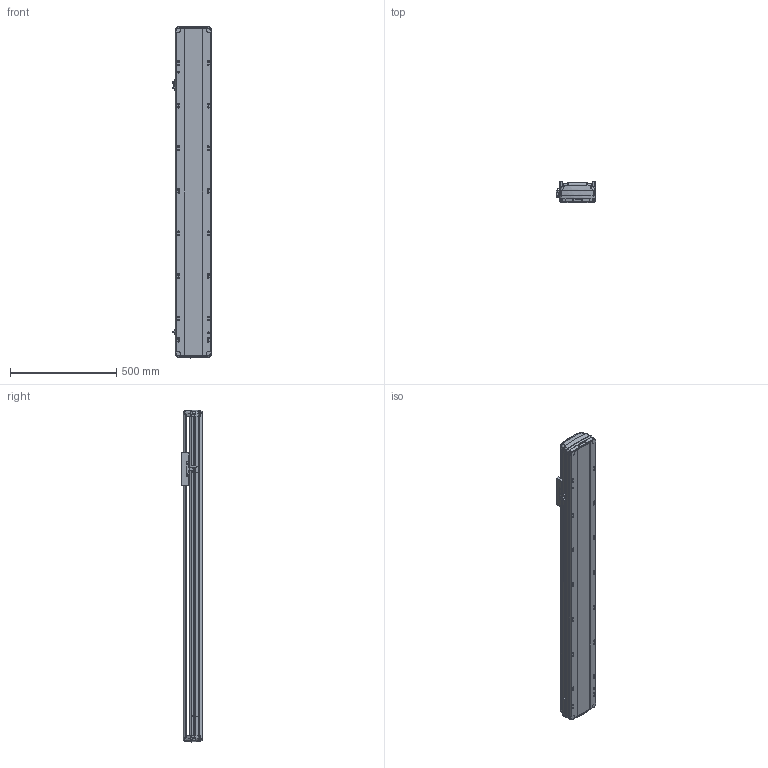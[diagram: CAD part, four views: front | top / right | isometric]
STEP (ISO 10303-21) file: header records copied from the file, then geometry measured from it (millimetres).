
FILE_DESCRIPTION (( 'STEP AP214' ), '1' );
FILE_NAME ('RTH17-XX-1150-B-M40-C4.STEP', '2025-10-24T08:39:44', ( '' ), ( '' ), 'SwSTEP 2.0', 'SolidWorks 2018', '' );
FILE_SCHEMA (( 'AUTOMOTIVE_DESIGN' ));
Length unit declared in the file: millimetre
Products named in the file (7): N_RTH17-M-011底座^RTH17-XX-XX-B-M40-C4（方程式）; N_OMRON EE-SX672 換覜ん^RTH17-XX-XX-B-M40-C4ㄗ源最宒ㄘ; N_RTH17-M-007上盖^RTH17-XX-XX-B-M40-C4（方程式）; N_RTH-L-012 感应片(外置)^RTH17-XX-XX-B-M40-C4（方程式）; RTH17-XX-1150-B-M40-C4; N_RTH17-E-004丝杆螺母连接座^RTH17-XX-XX-B-M40-C4（方程式）; N_RTH17-GY-001P^RTH17-XX-XX-B-M40-C4（方程式）
Assembly tree (9 placements, depth 2):
  RTH17-XX-1150-B-M40-C4
    N_RTH17-M-011底座^RTH17-XX-XX-B-M40-C4（方程式）
    N_RTH17-M-007上盖^RTH17-XX-XX-B-M40-C4（方程式）
    N_OMRON EE-SX672 換覜ん^RTH17-XX-XX-B-M40-C4ㄗ源最宒ㄘ  x3
    N_RTH-L-012 感应片(外置)^RTH17-XX-XX-B-M40-C4（方程式）
    N_RTH17-E-004丝杆螺母连接座^RTH17-XX-XX-B-M40-C4（方程式）
    N_RTH17-GY-001P^RTH17-XX-XX-B-M40-C4（方程式）  x2
Bounding box: 183.5 x 97 x 1559.88 mm (x, y, z)
Volume: 11297776.2 mm3; surface area: 1533254.6 mm2
Topology: 7 solids, 11 shells, 1768 faces, 4988 edges, 3242 vertices
Faces by surface type: plane 815, cylinder 487, bspline 420, cone 28, torus 18
Entity records: 42582 total; most frequent: CARTESIAN_POINT 17551, ORIENTED_EDGE 5480, DIRECTION 4336, EDGE_CURVE 2744, VERTEX_POINT 1796, LINE 1472, VECTOR 1472, AXIS2_PLACEMENT_3D 1432
